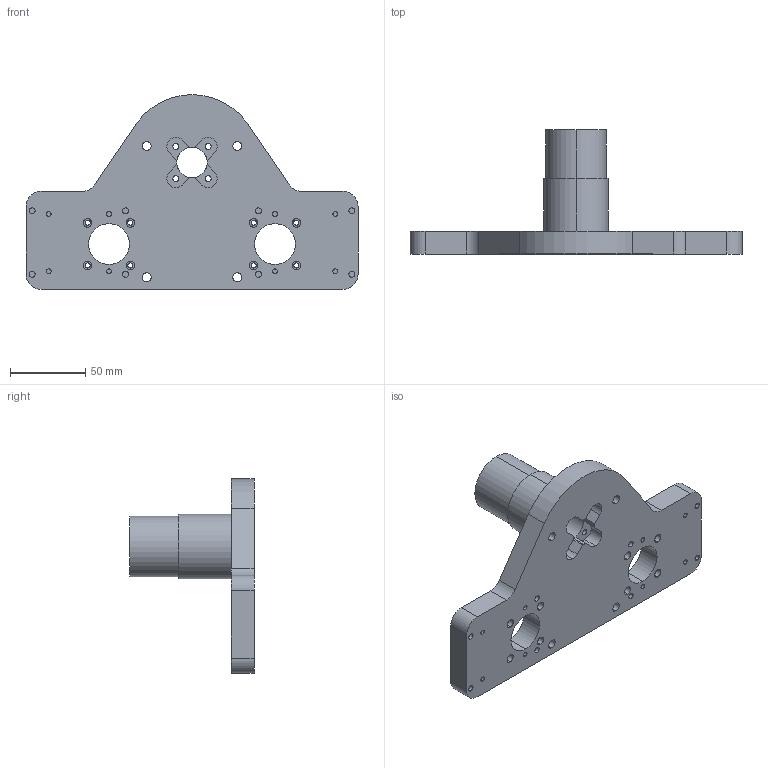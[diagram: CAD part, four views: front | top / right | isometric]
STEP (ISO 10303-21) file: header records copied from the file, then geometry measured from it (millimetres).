
FILE_DESCRIPTION (( 'STEP AP214' ), '1' );
FILE_NAME ('Hopper_Base.STEP', '2026-07-28T10:11:14', ( '' ), ( '' ), 'SwSTEP 2.0', 'SolidWorks 2024', '' );
FILE_SCHEMA (( 'AUTOMOTIVE_DESIGN' ));
Length unit declared in the file: millimetre
Products named in the file (1): Hopper_Base
Bounding box: 220 x 82.3 x 129.07 mm (x, y, z)
Volume: 332034.6 mm3; surface area: 70545.3 mm2
Topology: 1 solids, 1 shells, 162 faces, 390 edges, 260 vertices
Faces by surface type: cylinder 111, plane 51
Entity records: 4943 total; most frequent: DIRECTION 946, CARTESIAN_POINT 813, ORIENTED_EDGE 780, AXIS2_PLACEMENT_3D 393, EDGE_CURVE 390, VERTEX_POINT 260, CIRCLE 230, EDGE_LOOP 230
